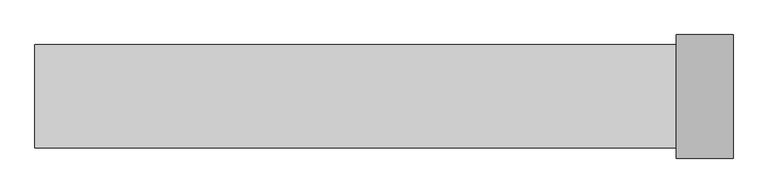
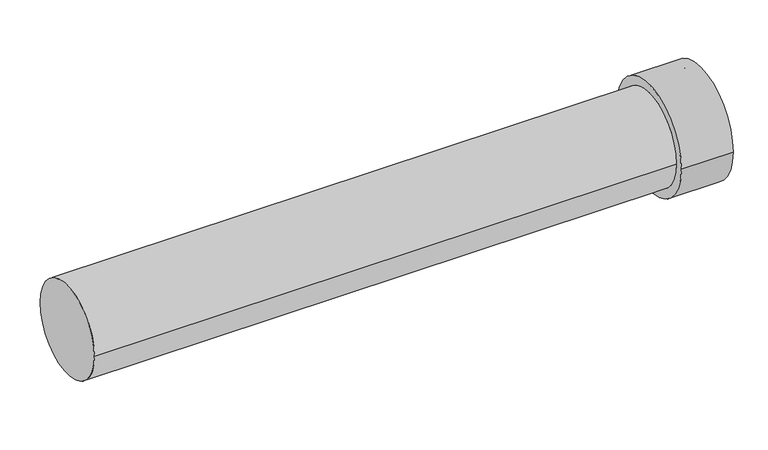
"""IFC4 building model written with IfcOpenShell, lengths in millimetres: duct segment geometry, NLRS_57_DUF_UN_duct EPP_M&G : ø125 - ø180."""

from ifc_helpers import new_model, si_unit, frame, origin, place, context, project, spatial, polyline, circle_curve, source, transform, mapped, element, save
from ifc_brep_helpers import plane_surface, cylinder_surface, revolved_surface, advanced_brep


def duct_segment_380bfdc6(model_context):
    return source(origin(), model_context, "Body", "AdvancedBrep", [
        advanced_brep(
        [(1005.0, -77.5, 0.0), (1005.0, 77.5, 0.0), (0.0, 77.5, 0.0), (0.0, -77.5, 0.0), (960.0, -77.5, 0.0), (960.0, 77.5, 0.0), (960.0, -92.5, 0.0), (960.0, 92.5, 0.0), (1045.0, -92.5, 0.0), (1045.0, 92.5, 0.0), (1045.0, -77.5, 0.0), (1045.0, 77.5, 0.0)],
        [
            (0, 1, circle_curve(frame((1005.0, 0.0, 0.0), z_axis=(1.0, 0.0, 0.0), x_axis=(0.0, 1.0, 0.0)), 77.5)),
            (1, 0, circle_curve(frame((1005.0, 0.0, 0.0), z_axis=(1.0, 0.0, 0.0), x_axis=(0.0, 1.0, 0.0)), 77.5)),
            (2, 3, circle_curve(frame((0.0, 0.0, 0.0), z_axis=(-1.0, 0.0, 0.0), x_axis=(0.0, -1.0, 0.0)), 77.5)),
            (3, 2, circle_curve(frame((0.0, 0.0, 0.0), z_axis=(-1.0, 0.0, 0.0), x_axis=(0.0, -1.0, 0.0)), 77.5)),
            (3, 4),
            (4, 5, circle_curve(frame((960.0, 0.0, 0.0), z_axis=(-1.0, 0.0, 0.0), x_axis=(0.0, -1.0, 0.0)), 77.5)),
            (5, 2),
            (5, 4, circle_curve(frame((960.0, 0.0, 0.0), z_axis=(-1.0, 0.0, 0.0), x_axis=(0.0, -1.0, 0.0)), 77.5)),
            (6, 7, circle_curve(frame((960.0, 0.0, 0.0), z_axis=(-1.0, 0.0, 0.0), x_axis=(0.0, 1.0, 0.0)), 92.5)),
            (7, 6, circle_curve(frame((960.0, 0.0, 0.0), z_axis=(-1.0, 0.0, 0.0), x_axis=(0.0, 1.0, 0.0)), 92.5)),
            (8, 9, circle_curve(frame((1045.0, 0.0, 0.0), z_axis=(1.0, 0.0, 0.0), x_axis=(0.0, 1.0, 0.0)), 92.5)),
            (9, 8, circle_curve(frame((1045.0, 0.0, 0.0), z_axis=(1.0, 0.0, 0.0), x_axis=(0.0, 1.0, 0.0)), 92.5)),
            (10, 11, circle_curve(frame((1045.0, 0.0, 0.0), z_axis=(-1.0, 0.0, 0.0), x_axis=(0.0, 1.0, 0.0)), 77.5)),
            (11, 10, circle_curve(frame((1045.0, 0.0, 0.0), z_axis=(-1.0, 0.0, 0.0), x_axis=(0.0, 1.0, 0.0)), 77.5)),
            (11, 1),
            (0, 10),
            (6, 8),
            (9, 7),
        ],
        [
            plane_surface(frame((1005.0, 0.0, 0.0), z_axis=(1.0, 0.0, 0.0), x_axis=(0.0, 0.0, 1.0))),
            plane_surface(frame((0.0, 0.0, 0.0), z_axis=(-1.0, 0.0, 0.0), x_axis=(0.0, 0.0, 1.0))),
            cylinder_surface(frame((1005.0, 0.0, 0.0), z_axis=(1.0, 0.0, 0.0), x_axis=(0.0, -1.0, 0.0)), 77.5),
            plane_surface(frame((960.0, 0.0, 0.0), z_axis=(-1.0, 0.0, 0.0), x_axis=(0.0, 0.0, 1.0))),
            plane_surface(frame((1045.0, 0.0, 0.0), z_axis=(1.0, 0.0, 0.0), x_axis=(0.0, 0.0, 1.0))),
            revolved_surface(polyline([(1045.0, 77.5, 0.0), (1005.0, 77.5, 0.0)]), (960.0, 0.0, 0.0), (1.0, 0.0, 0.0)),
            cylinder_surface(frame((960.0, 0.0, 0.0), z_axis=(-1.0, 0.0, 0.0), x_axis=(0.0, 1.0, 0.0)), 92.5),
        ],
        [
            (0, [[1, 2]]),
            (1, [[3, 4]]),
            (2, [[-4, 5, 6, 7]]),
            (2, [[-3, -7, 8, -5]]),
            (3, [[9, 10], [-6, -8]]),
            (4, [[11, 12], [13, 14]]),
            (5, [[-14, 15, -1, 16]]),
            (5, [[-13, -16, -2, -15]]),
            (6, [[-9, 17, -12, 18]]),
            (6, [[-10, -18, -11, -17]]),
        ],
    ),
    ])


if __name__ == "__main__":
    model = new_model("IFC4")
    model_context = context("Model", 3, world=origin())
    ifc_project = project(units=[si_unit("LENGTHUNIT", "METRE", prefix="MILLI")], contexts=[model_context])
    site = spatial("IfcSite", under=ifc_project)
    building = spatial("IfcBuilding", under=site)
    placement = place(None, origin())
    duct_segment_shape = duct_segment_380bfdc6(model_context)
    element("IfcDuctSegment", 1, ObjectType="NLRS_57_DUF_UN_duct EPP_M&G : ø125 - ø180", at=placement, inside=building, context=model_context, shape_type="MappedRepresentation", body=[
        mapped(duct_segment_shape, transform((0.0, 0.0, 0.0), x_axis=(1.0, 0.0, 0.0), y_axis=(0.0, 1.0, 0.0), z_axis=(0.0, 0.0, 1.0))),
    ])
    save(model, "model.ifc")
